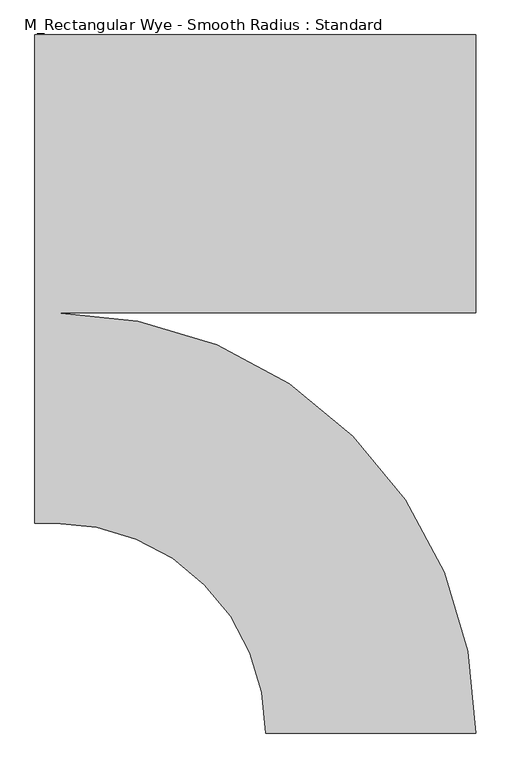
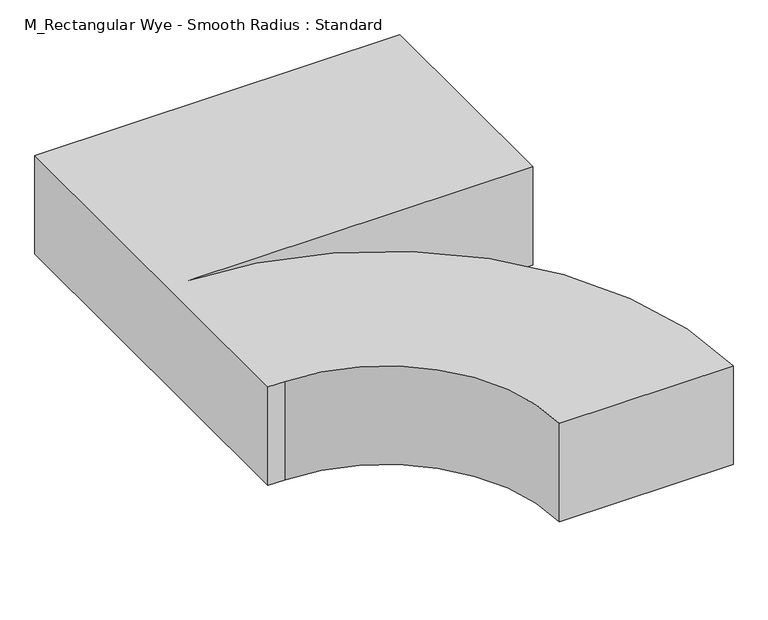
"""IFC4 building model written with IfcOpenShell, lengths in millimetres: duct fitting geometry, M_Rectangular Wye - Smooth Radius : Standard."""

from ifc_helpers import new_model, si_unit, frame, origin, place, context, project, spatial, polyline, circle_curve, source, transform, mapped, element, save
from ifc_brep_helpers import plane_surface, cylinder_surface, revolved_surface, advanced_brep


def m_rectangular_wye_smooth_radius_standard_737174da(model_context):
    return source(origin(), model_context, "Body", "AdvancedBrep", [
        advanced_brep(
        [(-250.0, -1206.0, 150.0), (-250.0, -1206.0, -150.0), (250.0, -1206.0, -150.0), (250.0, -1206.0, 150.0), (-750.0, -706.0, 150.0), (-750.0, -706.0, -150.0), (-800.0, -706.0, -150.0), (-800.0, 456.0, -150.0), (250.0, 456.0, -150.0), (250.0, -206.0, -150.0), (-750.0, -206.0, -150.0), (-750.0, -206.0, 150.0), (250.0, -206.0, 150.0), (250.0, 456.0, 150.0), (-800.0, 456.0, 150.0), (-800.0, -706.0, 150.0)],
        [
            (0, 1),
            (1, 2),
            (2, 3),
            (3, 0),
            (0, 4, circle_curve(frame((-750.0, -1206.0, 150.0), z_axis=(0.0, 0.0, 1.0), x_axis=(1.0, 0.0, 0.0)), 500.0)),
            (4, 5),
            (5, 1, circle_curve(frame((-750.0, -1206.0, -150.0), z_axis=(0.0, 0.0, -1.0), x_axis=(1.0, 0.0, 0.0)), 500.0)),
            (5, 6),
            (6, 7),
            (7, 8),
            (8, 9),
            (9, 10),
            (10, 2, circle_curve(frame((-750.0, -1206.0, -150.0), z_axis=(0.0, 0.0, -1.0), x_axis=(1.0, 0.0, 0.0)), 1000.0)),
            (10, 11),
            (11, 3, circle_curve(frame((-750.0, -1206.0, 150.0), z_axis=(0.0, 0.0, -1.0), x_axis=(1.0, 0.0, 0.0)), 1000.0)),
            (11, 12),
            (12, 13),
            (13, 14),
            (14, 15),
            (15, 4),
            (14, 7),
            (6, 15),
            (13, 8),
            (12, 9),
        ],
        [
            plane_surface(frame((0.0, -1206.0, 0.0), z_axis=(0.0, -1.0, 0.0), x_axis=(0.0, 0.0, 1.0))),
            revolved_surface(polyline([(-250.0, -1206.0, 150.0), (-250.0, -1206.0, -150.0)]), (-750.0, -1206.0, 0.0), (0.0, 0.0, 1.0)),
            plane_surface(frame((-750.0, -1206.0, -150.0), z_axis=(0.0, 0.0, -1.0), x_axis=(1.0, 0.0, 0.0))),
            cylinder_surface(frame((-750.0, -1206.0, 0.0), z_axis=(0.0, 0.0, 1.0), x_axis=(1.0, 0.0, 0.0)), 1000.0),
            plane_surface(frame((-750.0, -1206.0, 150.0), z_axis=(0.0, 0.0, 1.0), x_axis=(1.0, 0.0, 0.0))),
            plane_surface(frame((-800.0, -125.0, 0.0), z_axis=(-1.0, 0.0, 0.0), x_axis=(0.0, 0.0, 1.0))),
            plane_surface(frame((-800.0, 456.0, 150.0), z_axis=(0.0, 1.0, 0.0), x_axis=(1.0, 0.0, 0.0))),
            plane_surface(frame((-800.0, -706.0, -150.0), z_axis=(0.0, -1.0, 0.0), x_axis=(1.0, 0.0, 0.0))),
            plane_surface(frame((250.0, 125.0, 0.0), z_axis=(1.0, 0.0, 0.0), x_axis=(0.0, 0.0, 1.0))),
            plane_surface(frame((-750.0, -206.0, -150.0), z_axis=(0.0, -1.0, 0.0), x_axis=(1.0, 0.0, 0.0))),
        ],
        [
            (0, [[1, 2, 3, 4]]),
            (1, [[-1, 5, 6, 7]]),
            (2, [[-2, -7, 8, 9, 10, 11, 12, 13]]),
            (3, [[-3, -13, 14, 15]]),
            (4, [[-4, -15, 16, 17, 18, 19, 20, -5]]),
            (5, [[21, -9, 22, -19]]),
            (6, [[-10, -21, -18, 23]]),
            (7, [[-22, -8, -6, -20]]),
            (8, [[-17, 24, -11, -23]]),
            (9, [[-24, -16, -14, -12]]),
        ],
    ),
        advanced_brep(
        [(250.0, 456.0, 150.0), (250.0, -206.0, 150.0), (250.0, -206.0, -150.0), (250.0, 456.0, -150.0), (-800.0, 456.0, -150.0), (-800.0, 456.0, 150.0), (-750.0, -206.0, -150.0), (250.0, -1206.0, -150.0), (-250.0, -1206.0, -150.0), (-750.0, -706.0, -150.0), (-800.0, -706.0, -150.0), (-750.0, -206.0, 150.0), (-800.0, -706.0, 150.0), (-750.0, -706.0, 150.0), (-250.0, -1206.0, 150.0), (250.0, -1206.0, 150.0)],
        [
            (0, 1),
            (1, 2),
            (2, 3),
            (3, 0),
            (3, 4),
            (4, 5),
            (5, 0),
            (2, 6),
            (6, 7, circle_curve(frame((-750.0, -1206.0, -150.0), z_axis=(0.0, 0.0, -1.0), x_axis=(1.0, 0.0, 0.0)), 1000.0)),
            (7, 8),
            (8, 9, circle_curve(frame((-750.0, -1206.0, -150.0), z_axis=(0.0, 0.0, 1.0), x_axis=(1.0, 0.0, 0.0)), 500.0)),
            (9, 10),
            (10, 4),
            (1, 11),
            (11, 6),
            (5, 12),
            (12, 13),
            (13, 14, circle_curve(frame((-750.0, -1206.0, 150.0), z_axis=(0.0, 0.0, -1.0), x_axis=(1.0, 0.0, 0.0)), 500.0)),
            (14, 15),
            (15, 11, circle_curve(frame((-750.0, -1206.0, 150.0), z_axis=(0.0, 0.0, 1.0), x_axis=(1.0, 0.0, 0.0)), 1000.0)),
            (10, 12),
            (9, 13),
            (14, 8),
            (7, 15),
        ],
        [
            plane_surface(frame((250.0, 125.0, 0.0), z_axis=(1.0, 0.0, 0.0), x_axis=(0.0, 0.0, 1.0))),
            plane_surface(frame((-750.0, 456.0, 150.0), z_axis=(0.0, 1.0, 0.0), x_axis=(1.0, 0.0, 0.0))),
            plane_surface(frame((-750.0, 456.0, -150.0), z_axis=(0.0, 0.0, -1.0), x_axis=(1.0, 0.0, 0.0))),
            plane_surface(frame((-750.0, -206.0, -150.0), z_axis=(0.0, -1.0, 0.0), x_axis=(1.0, 0.0, 0.0))),
            plane_surface(frame((-750.0, -206.0, 150.0), z_axis=(0.0, 0.0, 1.0), x_axis=(1.0, 0.0, 0.0))),
            plane_surface(frame((-800.0, -125.0, 0.0), z_axis=(-1.0, 0.0, 0.0), x_axis=(0.0, 0.0, 1.0))),
            plane_surface(frame((-800.0, -706.0, -150.0), z_axis=(0.0, -1.0, 0.0), x_axis=(1.0, 0.0, 0.0))),
            plane_surface(frame((0.0, -1206.0, 0.0), z_axis=(0.0, -1.0, 0.0), x_axis=(0.0, 0.0, 1.0))),
            revolved_surface(polyline([(-250.0, -1206.0, 150.0), (-250.0, -1206.0, -150.0)]), (-750.0, -1206.0, 0.0), (0.0, 0.0, 1.0)),
            cylinder_surface(frame((-750.0, -1206.0, 0.0), z_axis=(0.0, 0.0, 1.0), x_axis=(1.0, 0.0, 0.0)), 1000.0),
        ],
        [
            (0, [[1, 2, 3, 4]]),
            (1, [[-4, 5, 6, 7]]),
            (2, [[-3, 8, 9, 10, 11, 12, 13, -5]]),
            (3, [[-2, 14, 15, -8]]),
            (4, [[-1, -7, 16, 17, 18, 19, 20, -14]]),
            (5, [[-6, -13, 21, -16]]),
            (6, [[-21, -12, 22, -17]]),
            (7, [[23, -10, 24, -19]]),
            (8, [[-23, -18, -22, -11]]),
            (9, [[-24, -9, -15, -20]]),
        ],
    ),
        advanced_brep(
        [(-250.0, -1206.0, 150.0), (-250.0, -1206.0, -150.0), (250.0, -1206.0, -150.0), (250.0, -1206.0, 150.0), (-750.0, -706.0, 150.0), (-750.0, -706.0, -150.0), (-800.0, -706.0, -150.0), (-800.0, 456.0, -150.0), (250.0, 456.0, -150.0), (250.0, -206.0, -150.0), (-750.0, -206.0, -150.0), (-750.0, -206.0, 150.0), (250.0, -206.0, 150.0), (250.0, 456.0, 150.0), (-800.0, 456.0, 150.0), (-800.0, -706.0, 150.0)],
        [
            (0, 1),
            (1, 2),
            (2, 3),
            (3, 0),
            (0, 4, circle_curve(frame((-750.0, -1206.0, 150.0), z_axis=(0.0, 0.0, 1.0), x_axis=(1.0, 0.0, 0.0)), 500.0)),
            (4, 5),
            (5, 1, circle_curve(frame((-750.0, -1206.0, -150.0), z_axis=(0.0, 0.0, -1.0), x_axis=(1.0, 0.0, 0.0)), 500.0)),
            (5, 6),
            (6, 7),
            (7, 8),
            (8, 9),
            (9, 10),
            (10, 2, circle_curve(frame((-750.0, -1206.0, -150.0), z_axis=(0.0, 0.0, -1.0), x_axis=(1.0, 0.0, 0.0)), 1000.0)),
            (10, 11),
            (11, 3, circle_curve(frame((-750.0, -1206.0, 150.0), z_axis=(0.0, 0.0, -1.0), x_axis=(1.0, 0.0, 0.0)), 1000.0)),
            (11, 12),
            (12, 13),
            (13, 14),
            (14, 15),
            (15, 4),
            (14, 7),
            (6, 15),
            (13, 8),
            (12, 9),
        ],
        [
            plane_surface(frame((0.0, -1206.0, 0.0), z_axis=(0.0, -1.0, 0.0), x_axis=(0.0, 0.0, 1.0))),
            revolved_surface(polyline([(-250.0, -1206.0, 150.0), (-250.0, -1206.0, -150.0)]), (-750.0, -1206.0, 0.0), (0.0, 0.0, 1.0)),
            plane_surface(frame((-750.0, -1206.0, -150.0), z_axis=(0.0, 0.0, -1.0), x_axis=(1.0, 0.0, 0.0))),
            cylinder_surface(frame((-750.0, -1206.0, 0.0), z_axis=(0.0, 0.0, 1.0), x_axis=(1.0, 0.0, 0.0)), 1000.0),
            plane_surface(frame((-750.0, -1206.0, 150.0), z_axis=(0.0, 0.0, 1.0), x_axis=(1.0, 0.0, 0.0))),
            plane_surface(frame((-800.0, -125.0, 0.0), z_axis=(-1.0, 0.0, 0.0), x_axis=(0.0, 0.0, 1.0))),
            plane_surface(frame((-800.0, 456.0, 150.0), z_axis=(0.0, 1.0, 0.0), x_axis=(1.0, 0.0, 0.0))),
            plane_surface(frame((-800.0, -706.0, -150.0), z_axis=(0.0, -1.0, 0.0), x_axis=(1.0, 0.0, 0.0))),
            plane_surface(frame((250.0, 125.0, 0.0), z_axis=(1.0, 0.0, 0.0), x_axis=(0.0, 0.0, 1.0))),
            plane_surface(frame((-750.0, -206.0, -150.0), z_axis=(0.0, -1.0, 0.0), x_axis=(1.0, 0.0, 0.0))),
        ],
        [
            (0, [[1, 2, 3, 4]]),
            (1, [[-1, 5, 6, 7]]),
            (2, [[-2, -7, 8, 9, 10, 11, 12, 13]]),
            (3, [[-3, -13, 14, 15]]),
            (4, [[-4, -15, 16, 17, 18, 19, 20, -5]]),
            (5, [[21, -9, 22, -19]]),
            (6, [[-10, -21, -18, 23]]),
            (7, [[-22, -8, -6, -20]]),
            (8, [[-17, 24, -11, -23]]),
            (9, [[-24, -16, -14, -12]]),
        ],
    ),
    ])


if __name__ == "__main__":
    model = new_model("IFC4")
    model_context = context("Model", 3, world=origin())
    ifc_project = project(units=[si_unit("LENGTHUNIT", "METRE", prefix="MILLI")], contexts=[model_context])
    site = spatial("IfcSite", under=ifc_project)
    building = spatial("IfcBuilding", under=site)
    placement = place(None, origin())
    m_rectangular_wye_smooth_radius_standard_shape = m_rectangular_wye_smooth_radius_standard_737174da(model_context)
    element("IfcDuctFitting", 1, ObjectType="M_Rectangular Wye - Smooth Radius : Standard", at=placement, inside=building, context=model_context, shape_type="MappedRepresentation", body=[
        mapped(m_rectangular_wye_smooth_radius_standard_shape, transform((0.0, 0.0, 0.0), x_axis=(1.0, 0.0, 0.0), y_axis=(0.0, 1.0, 0.0), z_axis=(0.0, 0.0, 1.0))),
    ])
    save(model, "model.ifc")
